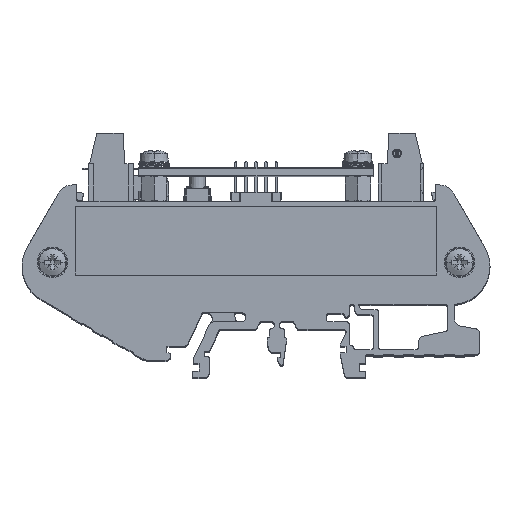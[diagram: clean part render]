
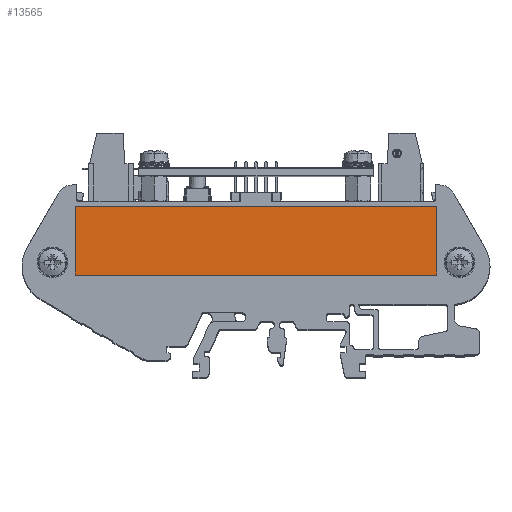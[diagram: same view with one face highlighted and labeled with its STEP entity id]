
A CAD part, top view. The second image highlights one B-rep face of the part: STEP entity #13565.
In plain terms, the highlighted planar face has unit normal (0, 0, 1).
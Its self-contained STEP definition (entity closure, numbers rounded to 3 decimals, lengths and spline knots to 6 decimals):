
#13565=ADVANCED_FACE('4:1117',(#25581),#25582,.F.);
#25581=FACE_OUTER_BOUND('',#36124,.T.);
#25582=PLANE('',#36125);
#36124=EDGE_LOOP('',(#54165,#54166,#54167,#54168));
#36125=AXIS2_PLACEMENT_3D('',#54169,#54170,#54171);
#54165=ORIENTED_EDGE('',*,*,#68467,.T.);
#54166=ORIENTED_EDGE('',*,*,#68465,.T.);
#54167=ORIENTED_EDGE('',*,*,#68463,.T.);
#54168=ORIENTED_EDGE('',*,*,#68461,.T.);
#54169=CARTESIAN_POINT('',(0.0,0.004835,0.001735));
#54170=DIRECTION('',(0.0,0.,-1.0));
#54171=DIRECTION('',(1.0,0.0,0.0));
#68461=EDGE_CURVE('4:4366',#79350,#79348,#79351,.T.);
#68463=EDGE_CURVE('4:4372',#79353,#79350,#79354,.T.);
#68465=EDGE_CURVE('4:4378',#79356,#79353,#79357,.T.);
#68467=EDGE_CURVE('4:4384',#79348,#79356,#79359,.T.);
#79348=VERTEX_POINT('',#119879);
#79350=VERTEX_POINT('',#119882);
#79351=LINE('',#119883,#119884);
#79353=VERTEX_POINT('',#119887);
#79354=LINE('',#119888,#119889);
#79356=VERTEX_POINT('',#119892);
#79357=LINE('',#119893,#119894);
#79359=LINE('',#119897,#119898);
#119879=CARTESIAN_POINT('',(-0.0355,0.004635,0.001735));
#119882=CARTESIAN_POINT('',(-0.0355,0.018135,0.001735));
#119883=CARTESIAN_POINT('',(-0.0355,0.018135,0.001735));
#119884=VECTOR('',#129305,0.0135);
#119887=CARTESIAN_POINT('',(0.0355,0.018135,0.001735));
#119888=CARTESIAN_POINT('',(0.0355,0.018135,0.001735));
#119889=VECTOR('',#129307,0.071);
#119892=CARTESIAN_POINT('',(0.0355,0.004635,0.001735));
#119893=CARTESIAN_POINT('',(0.0355,0.004635,0.001735));
#119894=VECTOR('',#129309,0.0135);
#119897=CARTESIAN_POINT('',(-0.0355,0.004635,0.001735));
#119898=VECTOR('',#129311,0.071);
#129305=DIRECTION('',(0.0,-1.0,0.));
#129307=DIRECTION('',(-1.0,-0.0,0.0));
#129309=DIRECTION('',(0.0,1.0,0.));
#129311=DIRECTION('',(1.0,0.0,0.0));
